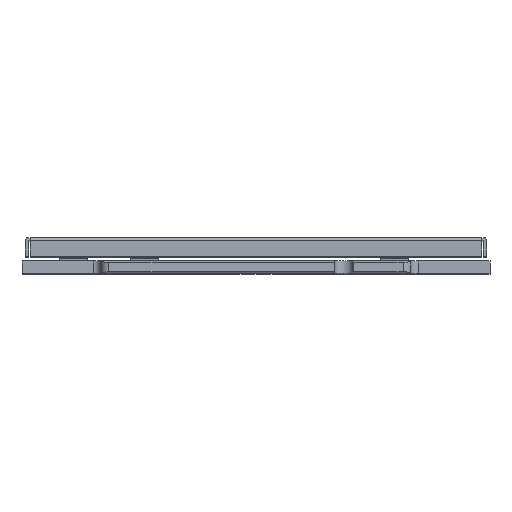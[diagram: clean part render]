
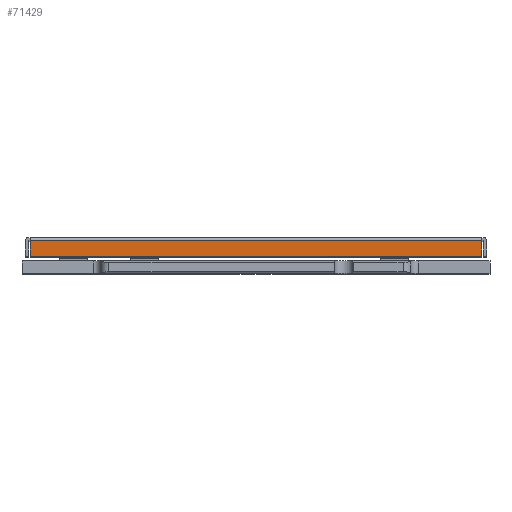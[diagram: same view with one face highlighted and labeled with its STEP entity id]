
A CAD part, top view. The second image highlights one B-rep face of the part: STEP entity #71429.
In plain terms, the highlighted planar face has unit normal (0, 0, 1) as drawn and (0, 0, -1) by its records, which use the part's own axes.
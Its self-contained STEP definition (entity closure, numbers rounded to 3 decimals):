
#17594=DIRECTION('',(-1.,0.,0.));
#17595=VECTOR('',#17594,28.96);
#17596=CARTESIAN_POINT('',(14.48,0.,-17.005));
#17597=LINE('',#17596,#17595);
#31581=DIRECTION('',(-1.,0.,0.));
#31582=VECTOR('',#31581,28.96);
#31583=CARTESIAN_POINT('',(14.48,1.,-17.005));
#31584=LINE('',#31583,#31582);
#31588=DIRECTION('',(0.,1.,0.));
#31589=VECTOR('',#31588,1.);
#31590=CARTESIAN_POINT('',(-14.48,0.,-17.005));
#31591=LINE('',#31590,#31589);
#31595=DIRECTION('',(0.,1.,0.));
#31596=VECTOR('',#31595,1.);
#31597=CARTESIAN_POINT('',(14.48,0.,-17.005));
#31598=LINE('',#31597,#31596);
#59144=CARTESIAN_POINT('',(-14.48,0.,-17.005));
#59146=VERTEX_POINT('',#59144);
#59148=CARTESIAN_POINT('',(14.48,0.,-17.005));
#59150=VERTEX_POINT('',#59148);
#59205=CARTESIAN_POINT('',(-14.48,1.,-17.005));
#59207=VERTEX_POINT('',#59205);
#59208=CARTESIAN_POINT('',(14.48,1.,-17.005));
#59209=VERTEX_POINT('',#59208);
#71418=CARTESIAN_POINT('',(14.78,0.,-17.005));
#71419=DIRECTION('',(0.,0.,-1.));
#71420=DIRECTION('',(-1.,0.,0.));
#71421=AXIS2_PLACEMENT_3D('',#71418,#71419,#71420);
#71422=PLANE('',#71421);
#71423=ORIENTED_EDGE('',*,*,#71234,.T.);
#71424=ORIENTED_EDGE('',*,*,#71255,.F.);
#71425=ORIENTED_EDGE('',*,*,#66837,.F.);
#71426=ORIENTED_EDGE('',*,*,#71407,.T.);
#71427=EDGE_LOOP('',(#71423,#71424,#71425,#71426));
#71428=FACE_OUTER_BOUND('',#71427,.F.);
#71429=ADVANCED_FACE('',(#71428),#71422,.T.);
#66837=EDGE_CURVE('',#59150,#59146,#17597,.T.);
#71234=EDGE_CURVE('',#59209,#59207,#31584,.T.);
#71255=EDGE_CURVE('',#59146,#59207,#31591,.T.);
#71407=EDGE_CURVE('',#59150,#59209,#31598,.T.);
